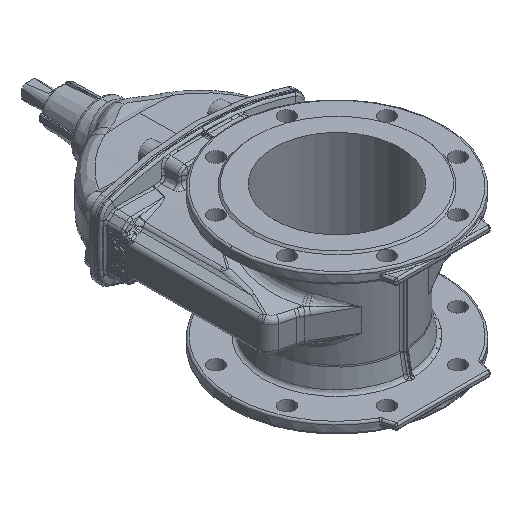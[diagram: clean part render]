
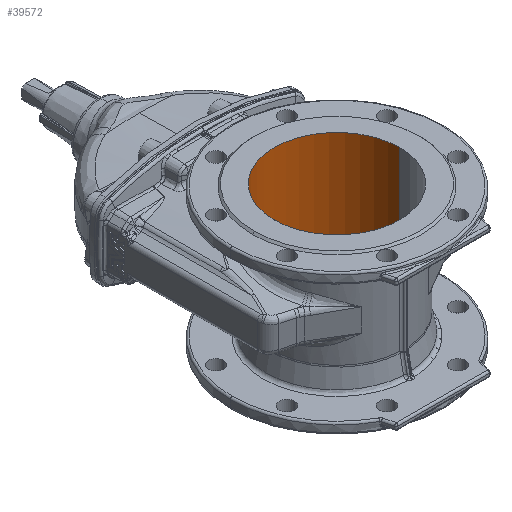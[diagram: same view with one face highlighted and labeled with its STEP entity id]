
A CAD part, isometric view. The second image highlights one B-rep face of the part: STEP entity #39572.
In plain terms, the highlighted cylindrical face has radius 100 mm (diameter 200 mm), a partial arc.
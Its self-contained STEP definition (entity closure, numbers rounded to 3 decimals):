
#456 = LINE ( 'NONE', #7391, #24795 ) ;
#1167 = EDGE_CURVE ( 'NONE', #11729, #38531, #7906, .T. ) ;
#1222 = EDGE_CURVE ( 'NONE', #16571, #11729, #8096, .T. ) ;
#1992 = ORIENTED_EDGE ( 'NONE', *, *, #29640, .T. ) ;
#3046 = CARTESIAN_POINT ( 'NONE',  ( 0., 0., -115. ) ) ;
#4092 = CARTESIAN_POINT ( 'NONE',  ( -100., 0., -115. ) ) ;
#4609 = ORIENTED_EDGE ( 'NONE', *, *, #1222, .F. ) ;
#5091 = AXIS2_PLACEMENT_3D ( 'NONE', #11485, #18185, #31329 ) ;
#6169 = AXIS2_PLACEMENT_3D ( 'NONE', #3046, #16048, #16258 ) ;
#7391 = CARTESIAN_POINT ( 'NONE',  ( -100., 0., 115. ) ) ;
#7906 = LINE ( 'NONE', #41160, #11572 ) ;
#8096 = CIRCLE ( 'NONE', #26700, 100. ) ;
#8112 = DIRECTION ( 'NONE',  ( -1., 0., 0. ) ) ;
#11485 = CARTESIAN_POINT ( 'NONE',  ( 0., 0., 115. ) ) ;
#11572 = VECTOR ( 'NONE', #40509, 1000. ) ;
#11729 = VERTEX_POINT ( 'NONE', #27048 ) ;
#12403 = CIRCLE ( 'NONE', #6169, 100. ) ;
#15919 = CARTESIAN_POINT ( 'NONE',  ( 100., 0., -115. ) ) ;
#16048 = DIRECTION ( 'NONE',  ( 0., 0., -1. ) ) ;
#16258 = DIRECTION ( 'NONE',  ( -1., 0., 0. ) ) ;
#16571 = VERTEX_POINT ( 'NONE', #39817 ) ;
#17140 = EDGE_LOOP ( 'NONE', ( #18822, #4609, #18687, #1992 ) ) ;
#18185 = DIRECTION ( 'NONE',  ( 0., 0., -1. ) ) ;
#18687 = ORIENTED_EDGE ( 'NONE', *, *, #27622, .T. ) ;
#18822 = ORIENTED_EDGE ( 'NONE', *, *, #1167, .F. ) ;
#18830 = FACE_OUTER_BOUND ( 'NONE', #17140, .T. ) ;
#21079 = DIRECTION ( 'NONE',  ( 0., 0., -1. ) ) ;
#23148 = VERTEX_POINT ( 'NONE', #4092 ) ;
#23596 = DIRECTION ( 'NONE',  ( 0., 0., -1. ) ) ;
#24795 = VECTOR ( 'NONE', #23596, 1000. ) ;
#26700 = AXIS2_PLACEMENT_3D ( 'NONE', #37478, #21079, #8112 ) ;
#27048 = CARTESIAN_POINT ( 'NONE',  ( 100., 0., 115. ) ) ;
#27622 = EDGE_CURVE ( 'NONE', #16571, #23148, #456, .T. ) ;
#28522 = CYLINDRICAL_SURFACE ( 'NONE', #5091, 100. ) ;
#29640 = EDGE_CURVE ( 'NONE', #23148, #38531, #12403, .T. ) ;
#31329 = DIRECTION ( 'NONE',  ( -1., 0., 0. ) ) ;
#37478 = CARTESIAN_POINT ( 'NONE',  ( 0., 0., 115. ) ) ;
#38531 = VERTEX_POINT ( 'NONE', #15919 ) ;
#39572 = ADVANCED_FACE ( 'NONE', ( #18830 ), #28522, .F. ) ;
#39817 = CARTESIAN_POINT ( 'NONE',  ( -100., 0., 115. ) ) ;
#40509 = DIRECTION ( 'NONE',  ( 0., 0., -1. ) ) ;
#41160 = CARTESIAN_POINT ( 'NONE',  ( 100., 0., 115. ) ) ;
